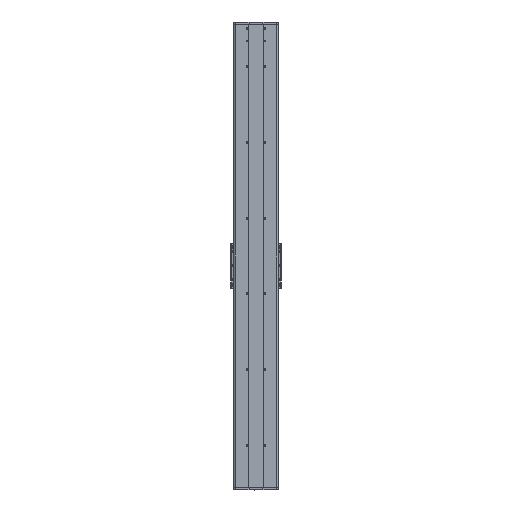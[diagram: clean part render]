
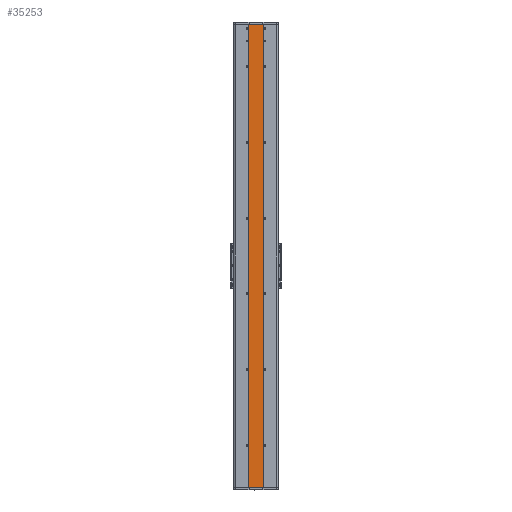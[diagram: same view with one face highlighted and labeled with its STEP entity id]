
A CAD part, front view. The second image highlights one B-rep face of the part: STEP entity #35253.
In plain terms, the highlighted planar face has unit normal (0, -1, 0).
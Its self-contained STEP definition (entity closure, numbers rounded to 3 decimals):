
#565 = EDGE_CURVE ( 'NONE', #10332, #22806, #37152, .T. ) ;
#763 = DIRECTION ( 'NONE',  ( 0., 0., 1. ) ) ;
#1706 = ORIENTED_EDGE ( 'NONE', *, *, #45193, .F. ) ;
#3699 = DIRECTION ( 'NONE',  ( -1., 0., 0. ) ) ;
#9642 = CARTESIAN_POINT ( 'NONE',  ( 1.27, -85.314, -265. ) ) ;
#9828 = ORIENTED_EDGE ( 'NONE', *, *, #29268, .T. ) ;
#9851 = CARTESIAN_POINT ( 'NONE',  ( 58.27, -85.314, 0. ) ) ;
#10332 = VERTEX_POINT ( 'NONE', #9851 ) ;
#11418 = FACE_OUTER_BOUND ( 'NONE', #25032, .T. ) ;
#13170 = PLANE ( 'NONE',  #24849 ) ;
#16367 = CARTESIAN_POINT ( 'NONE',  ( 1.27, -85.314, 1835. ) ) ;
#16822 = VECTOR ( 'NONE', #763, 1000. ) ;
#17337 = EDGE_CURVE ( 'NONE', #10332, #43397, #26180, .T. ) ;
#17710 = CARTESIAN_POINT ( 'NONE',  ( 1.27, -85.314, 0. ) ) ;
#22806 = VERTEX_POINT ( 'NONE', #17710 ) ;
#23540 = CARTESIAN_POINT ( 'NONE',  ( 1.27, -85.314, 1835. ) ) ;
#23667 = DIRECTION ( 'NONE',  ( 0., 1., 0. ) ) ;
#24849 = AXIS2_PLACEMENT_3D ( 'NONE', #9642, #23667, #37878 ) ;
#25032 = EDGE_LOOP ( 'NONE', ( #31596, #9828, #1706, #40500 ) ) ;
#25124 = CARTESIAN_POINT ( 'NONE',  ( 58.27, -85.314, 1835. ) ) ;
#26180 = LINE ( 'NONE', #29064, #16822 ) ;
#28467 = LINE ( 'NONE', #23540, #36787 ) ;
#29064 = CARTESIAN_POINT ( 'NONE',  ( 58.27, -85.314, -265. ) ) ;
#29268 = EDGE_CURVE ( 'NONE', #43397, #37290, #28467, .T. ) ;
#31596 = ORIENTED_EDGE ( 'NONE', *, *, #17337, .T. ) ;
#34141 = DIRECTION ( 'NONE',  ( -1., 0., 0. ) ) ;
#34300 = LINE ( 'NONE', #34708, #42574 ) ;
#34708 = CARTESIAN_POINT ( 'NONE',  ( 1.27, -85.314, -265. ) ) ;
#35253 = ADVANCED_FACE ( 'NONE', ( #11418 ), #13170, .F. ) ;
#36024 = VECTOR ( 'NONE', #3699, 1000. ) ;
#36787 = VECTOR ( 'NONE', #34141, 1000. ) ;
#37152 = LINE ( 'NONE', #42367, #36024 ) ;
#37290 = VERTEX_POINT ( 'NONE', #16367 ) ;
#37878 = DIRECTION ( 'NONE',  ( 0., 0., 1. ) ) ;
#38295 = DIRECTION ( 'NONE',  ( 0., 0., 1. ) ) ;
#40500 = ORIENTED_EDGE ( 'NONE', *, *, #565, .F. ) ;
#42367 = CARTESIAN_POINT ( 'NONE',  ( 0., -85.314, 0. ) ) ;
#42574 = VECTOR ( 'NONE', #38295, 1000. ) ;
#43397 = VERTEX_POINT ( 'NONE', #25124 ) ;
#45193 = EDGE_CURVE ( 'NONE', #22806, #37290, #34300, .T. ) ;
